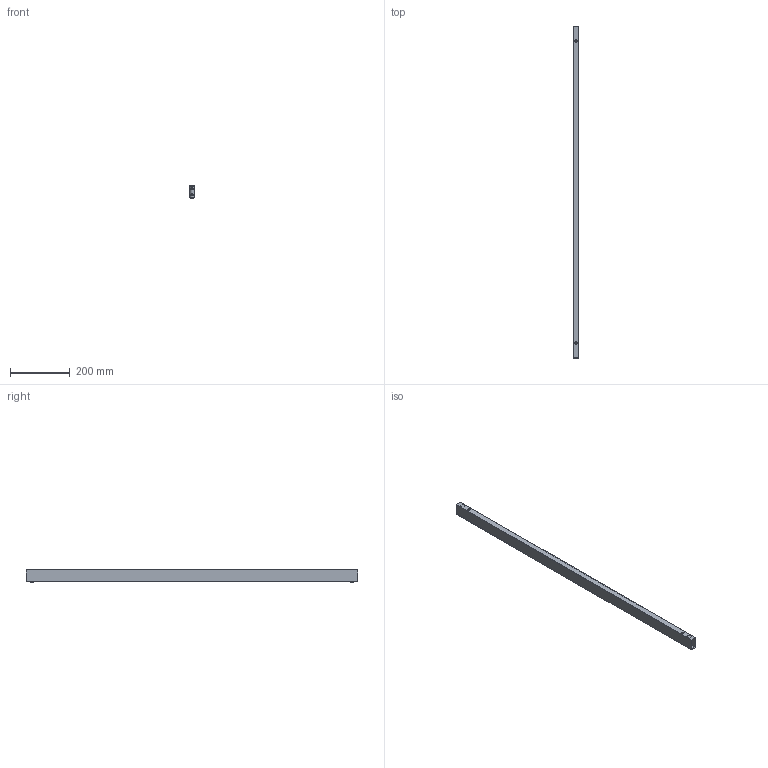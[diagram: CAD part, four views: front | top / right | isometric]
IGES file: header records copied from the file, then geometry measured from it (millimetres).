
Start section: Data from Parasolid IGES Translator 20.0.26, Copyright(c) 2006 Siemens P LM Software. All Rights Reserved.
Global section: file name: 46012.igs; native system: By Siemens PLM Incorporated; preprocessor: XPlus GENERIC/IGES 20.0.26; author: Noname; organization: Noname; date: 20210125.173221; units: millimetre
Bounding box: 20 x 1110 x 41.5 mm (x, y, z)
Surface area: 256893.7 mm2 (no closed solid volume)
Topology: 0 solids, 0 shells, 24 faces, 120 edges, 100 vertices
Faces by surface type: revolution 12, extrusion 12
